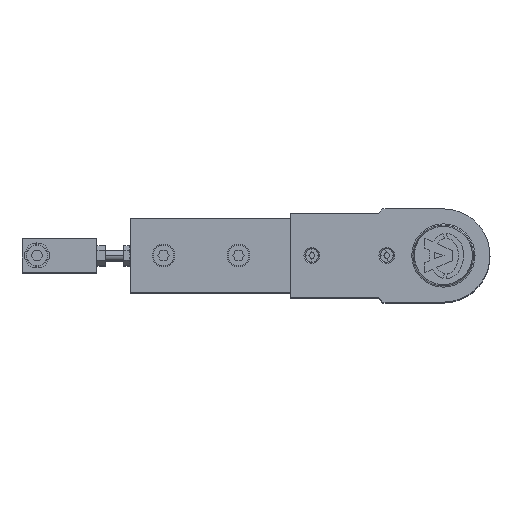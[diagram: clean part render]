
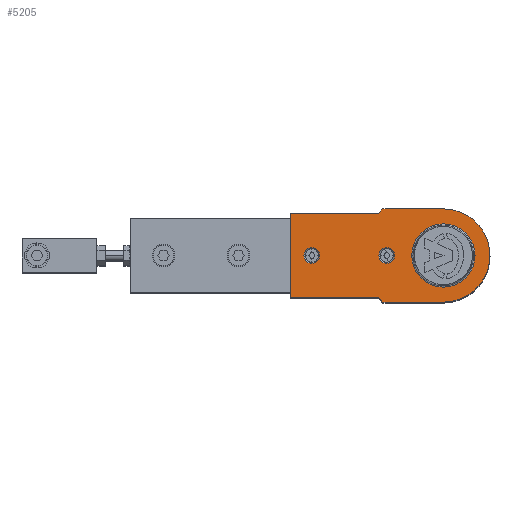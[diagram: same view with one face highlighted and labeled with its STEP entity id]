
A CAD part, top view. The second image highlights one B-rep face of the part: STEP entity #5205.
In plain terms, the highlighted planar face has unit normal (0, 0, 1).
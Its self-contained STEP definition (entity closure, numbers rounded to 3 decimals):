
#95 = VERTEX_POINT ( 'NONE', #6509 ) ;
#162 = VERTEX_POINT ( 'NONE', #8767 ) ;
#174 = ORIENTED_EDGE ( 'NONE', *, *, #1876, .F. ) ;
#190 = CIRCLE ( 'NONE', #10165, 28. ) ;
#264 = ORIENTED_EDGE ( 'NONE', *, *, #14171, .T. ) ;
#313 = VECTOR ( 'NONE', #13679, 1000. ) ;
#338 = CIRCLE ( 'NONE', #4773, 4.7 ) ;
#537 = VERTEX_POINT ( 'NONE', #8118 ) ;
#573 = DIRECTION ( 'NONE',  ( 0., 0., 1. ) ) ;
#697 = CARTESIAN_POINT ( 'NONE',  ( 0., -28., 37. ) ) ;
#1343 = CARTESIAN_POINT ( 'NONE',  ( 36.25, 28., 37. ) ) ;
#1686 = VECTOR ( 'NONE', #5557, 1000. ) ;
#1786 = ORIENTED_EDGE ( 'NONE', *, *, #11455, .T. ) ;
#1876 = EDGE_CURVE ( 'NONE', #2325, #13425, #12946, .T. ) ;
#1881 = EDGE_LOOP ( 'NONE', ( #264, #3152 ) ) ;
#1895 = ORIENTED_EDGE ( 'NONE', *, *, #4110, .F. ) ;
#2325 = VERTEX_POINT ( 'NONE', #12800 ) ;
#2445 = CARTESIAN_POINT ( 'NONE',  ( 79., 0., 37. ) ) ;
#2485 = PLANE ( 'NONE',  #11834 ) ;
#2489 = ORIENTED_EDGE ( 'NONE', *, *, #6292, .T. ) ;
#2564 = CIRCLE ( 'NONE', #13716, 18.996 ) ;
#2577 = VERTEX_POINT ( 'NONE', #12105 ) ;
#2725 = VERTEX_POINT ( 'NONE', #9837 ) ;
#2771 = CARTESIAN_POINT ( 'NONE',  ( 0., 0., 37. ) ) ;
#2782 = CARTESIAN_POINT ( 'NONE',  ( 39., 25.25, 37. ) ) ;
#2827 = VERTEX_POINT ( 'NONE', #11321 ) ;
#2858 = CARTESIAN_POINT ( 'NONE',  ( 18.996, 0., 37. ) ) ;
#3152 = ORIENTED_EDGE ( 'NONE', *, *, #11776, .T. ) ;
#3239 = LINE ( 'NONE', #11265, #10977 ) ;
#3479 = DIRECTION ( 'NONE',  ( 0., 0., -1. ) ) ;
#3535 = DIRECTION ( 'NONE',  ( 1., 0., 0. ) ) ;
#3722 = CARTESIAN_POINT ( 'NONE',  ( 74.3, 0., 37. ) ) ;
#3820 = ORIENTED_EDGE ( 'NONE', *, *, #5723, .F. ) ;
#3863 = EDGE_CURVE ( 'NONE', #12526, #537, #10301, .T. ) ;
#3896 = DIRECTION ( 'NONE',  ( 0., 0., -1. ) ) ;
#3996 = DIRECTION ( 'NONE',  ( 1., 0., 0. ) ) ;
#4110 = EDGE_CURVE ( 'NONE', #13425, #2325, #12023, .T. ) ;
#4542 = LINE ( 'NONE', #14155, #12640 ) ;
#4592 = DIRECTION ( 'NONE',  ( 0., 0., 1. ) ) ;
#4594 = ORIENTED_EDGE ( 'NONE', *, *, #12124, .T. ) ;
#4708 = DIRECTION ( 'NONE',  ( 0., 0., 1. ) ) ;
#4773 = AXIS2_PLACEMENT_3D ( 'NONE', #8833, #9027, #5522 ) ;
#4854 = DIRECTION ( 'NONE',  ( 1., 0., 0. ) ) ;
#4964 = CARTESIAN_POINT ( 'NONE',  ( 92., -25.25, 37. ) ) ;
#5080 = VERTEX_POINT ( 'NONE', #1343 ) ;
#5165 = ORIENTED_EDGE ( 'NONE', *, *, #5278, .T. ) ;
#5205 = ADVANCED_FACE ( 'NONE', ( #10090, #6642, #11467, #7836 ), #2485, .T. ) ;
#5278 = EDGE_CURVE ( 'NONE', #5924, #13395, #6793, .T. ) ;
#5522 = DIRECTION ( 'NONE',  ( 1., 0., 0. ) ) ;
#5557 = DIRECTION ( 'NONE',  ( 0., 1., 0. ) ) ;
#5639 = LINE ( 'NONE', #4964, #313 ) ;
#5684 = AXIS2_PLACEMENT_3D ( 'NONE', #2445, #4708, #4854 ) ;
#5722 = LINE ( 'NONE', #8936, #9349 ) ;
#5723 = EDGE_CURVE ( 'NONE', #12489, #95, #6613, .T. ) ;
#5873 = CARTESIAN_POINT ( 'NONE',  ( 0., -28., 37. ) ) ;
#5924 = VERTEX_POINT ( 'NONE', #12791 ) ;
#6237 = DIRECTION ( 'NONE',  ( 0., 0., 1. ) ) ;
#6292 = EDGE_CURVE ( 'NONE', #2725, #5924, #190, .T. ) ;
#6509 = CARTESIAN_POINT ( 'NONE',  ( 29.3, 0., 37. ) ) ;
#6613 = CIRCLE ( 'NONE', #7204, 4.7 ) ;
#6642 = FACE_BOUND ( 'NONE', #12307, .T. ) ;
#6793 = CIRCLE ( 'NONE', #13048, 28. ) ;
#7204 = AXIS2_PLACEMENT_3D ( 'NONE', #9121, #12501, #8092 ) ;
#7571 = EDGE_LOOP ( 'NONE', ( #4594, #8928, #2489, #5165, #1786, #10646, #11941, #10792, #8485 ) ) ;
#7836 = FACE_OUTER_BOUND ( 'NONE', #7571, .T. ) ;
#8004 = VERTEX_POINT ( 'NONE', #2858 ) ;
#8092 = DIRECTION ( 'NONE',  ( 1., 0., 0. ) ) ;
#8095 = DIRECTION ( 'NONE',  ( 1., 0., 0. ) ) ;
#8118 = CARTESIAN_POINT ( 'NONE',  ( 92., 25.25, 37. ) ) ;
#8415 = EDGE_CURVE ( 'NONE', #5080, #2725, #12992, .T. ) ;
#8473 = AXIS2_PLACEMENT_3D ( 'NONE', #9379, #573, #10384 ) ;
#8479 = CARTESIAN_POINT ( 'NONE',  ( 0., 0., 37. ) ) ;
#8485 = ORIENTED_EDGE ( 'NONE', *, *, #9010, .T. ) ;
#8629 = DIRECTION ( 'NONE',  ( 0.707, 0.707, 0. ) ) ;
#8767 = CARTESIAN_POINT ( 'NONE',  ( 39., -25.25, 37. ) ) ;
#8833 = CARTESIAN_POINT ( 'NONE',  ( 34., 0., 37. ) ) ;
#8889 = DIRECTION ( 'NONE',  ( 1., 0., 0. ) ) ;
#8928 = ORIENTED_EDGE ( 'NONE', *, *, #8415, .T. ) ;
#8932 = CARTESIAN_POINT ( 'NONE',  ( 92., 25.25, 37. ) ) ;
#8936 = CARTESIAN_POINT ( 'NONE',  ( 39., 25.25, 37. ) ) ;
#9010 = EDGE_CURVE ( 'NONE', #537, #12053, #5722, .T. ) ;
#9027 = DIRECTION ( 'NONE',  ( 0., 0., 1. ) ) ;
#9116 = DIRECTION ( 'NONE',  ( -0.707, 0.707, 0. ) ) ;
#9121 = CARTESIAN_POINT ( 'NONE',  ( 34., 0., 37. ) ) ;
#9192 = DIRECTION ( 'NONE',  ( -1., 0., 0. ) ) ;
#9281 = LINE ( 'NONE', #697, #12218 ) ;
#9342 = EDGE_CURVE ( 'NONE', #2827, #162, #4542, .T. ) ;
#9349 = VECTOR ( 'NONE', #11237, 1000. ) ;
#9371 = CARTESIAN_POINT ( 'NONE',  ( 0., 0., 37. ) ) ;
#9379 = CARTESIAN_POINT ( 'NONE',  ( 79., 0., 37. ) ) ;
#9837 = CARTESIAN_POINT ( 'NONE',  ( 0., 28., 37. ) ) ;
#9983 = EDGE_LOOP ( 'NONE', ( #174, #1895 ) ) ;
#10002 = CARTESIAN_POINT ( 'NONE',  ( 0., 0., 37. ) ) ;
#10090 = FACE_BOUND ( 'NONE', #1881, .T. ) ;
#10165 = AXIS2_PLACEMENT_3D ( 'NONE', #12442, #4592, #3535 ) ;
#10301 = LINE ( 'NONE', #8932, #1686 ) ;
#10384 = DIRECTION ( 'NONE',  ( 1., 0., 0. ) ) ;
#10521 = DIRECTION ( 'NONE',  ( 0., 0., 1. ) ) ;
#10646 = ORIENTED_EDGE ( 'NONE', *, *, #9342, .T. ) ;
#10792 = ORIENTED_EDGE ( 'NONE', *, *, #3863, .T. ) ;
#10977 = VECTOR ( 'NONE', #9116, 1000. ) ;
#11237 = DIRECTION ( 'NONE',  ( -1., 0., 0. ) ) ;
#11265 = CARTESIAN_POINT ( 'NONE',  ( 36.25, 28., 37. ) ) ;
#11321 = CARTESIAN_POINT ( 'NONE',  ( 36.25, -28., 37. ) ) ;
#11455 = EDGE_CURVE ( 'NONE', #13395, #2827, #9281, .T. ) ;
#11467 = FACE_BOUND ( 'NONE', #9983, .T. ) ;
#11629 = DIRECTION ( 'NONE',  ( 1., 0., 0. ) ) ;
#11678 = EDGE_CURVE ( 'NONE', #95, #12489, #338, .T. ) ;
#11776 = EDGE_CURVE ( 'NONE', #2577, #8004, #2564, .T. ) ;
#11834 = AXIS2_PLACEMENT_3D ( 'NONE', #9371, #10521, #11629 ) ;
#11883 = CARTESIAN_POINT ( 'NONE',  ( 92., -25.25, 37. ) ) ;
#11941 = ORIENTED_EDGE ( 'NONE', *, *, #12407, .T. ) ;
#12023 = CIRCLE ( 'NONE', #5684, 4.7 ) ;
#12053 = VERTEX_POINT ( 'NONE', #2782 ) ;
#12105 = CARTESIAN_POINT ( 'NONE',  ( -18.996, 0., 37. ) ) ;
#12124 = EDGE_CURVE ( 'NONE', #12053, #5080, #3239, .T. ) ;
#12218 = VECTOR ( 'NONE', #3996, 1000. ) ;
#12295 = ORIENTED_EDGE ( 'NONE', *, *, #11678, .F. ) ;
#12307 = EDGE_LOOP ( 'NONE', ( #3820, #12295 ) ) ;
#12407 = EDGE_CURVE ( 'NONE', #162, #12526, #5639, .T. ) ;
#12442 = CARTESIAN_POINT ( 'NONE',  ( 0., 0., 37. ) ) ;
#12489 = VERTEX_POINT ( 'NONE', #12772 ) ;
#12501 = DIRECTION ( 'NONE',  ( 0., 0., 1. ) ) ;
#12506 = CIRCLE ( 'NONE', #14119, 18.996 ) ;
#12526 = VERTEX_POINT ( 'NONE', #11883 ) ;
#12532 = CARTESIAN_POINT ( 'NONE',  ( 0., 28., 37. ) ) ;
#12640 = VECTOR ( 'NONE', #8629, 1000. ) ;
#12772 = CARTESIAN_POINT ( 'NONE',  ( 38.7, 0., 37. ) ) ;
#12791 = CARTESIAN_POINT ( 'NONE',  ( -28., 0., 37. ) ) ;
#12800 = CARTESIAN_POINT ( 'NONE',  ( 83.7, 0., 37. ) ) ;
#12894 = DIRECTION ( 'NONE',  ( 1., 0., 0. ) ) ;
#12946 = CIRCLE ( 'NONE', #8473, 4.7 ) ;
#12992 = LINE ( 'NONE', #12532, #13338 ) ;
#13048 = AXIS2_PLACEMENT_3D ( 'NONE', #8479, #6237, #12894 ) ;
#13338 = VECTOR ( 'NONE', #9192, 1000. ) ;
#13395 = VERTEX_POINT ( 'NONE', #5873 ) ;
#13425 = VERTEX_POINT ( 'NONE', #3722 ) ;
#13679 = DIRECTION ( 'NONE',  ( 1., 0., 0. ) ) ;
#13716 = AXIS2_PLACEMENT_3D ( 'NONE', #10002, #3479, #8889 ) ;
#14119 = AXIS2_PLACEMENT_3D ( 'NONE', #2771, #3896, #8095 ) ;
#14155 = CARTESIAN_POINT ( 'NONE',  ( 36.25, -28., 37. ) ) ;
#14171 = EDGE_CURVE ( 'NONE', #8004, #2577, #12506, .T. ) ;
